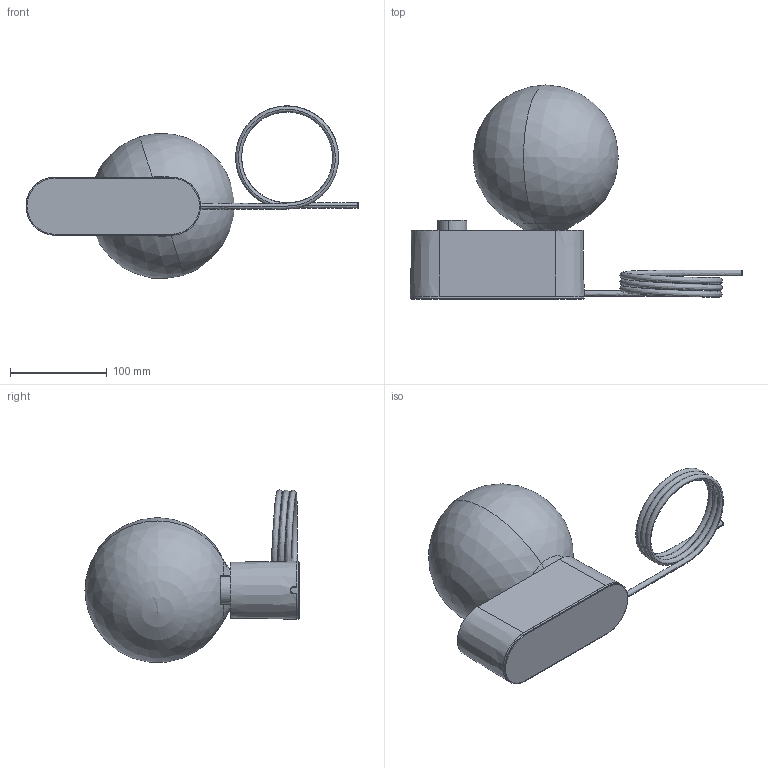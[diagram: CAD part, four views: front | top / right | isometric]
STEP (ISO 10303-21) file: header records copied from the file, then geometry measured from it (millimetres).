
FILE_DESCRIPTION (( 'STEP AP203' ), '1' );
FILE_NAME ('ALM-SPHR-IV-TBL-01-US.STEP', '2020-09-18T14:49:38', ( '' ), ( '' ), 'SwSTEP 2.0', 'SolidWorks 2020', '' );
FILE_SCHEMA (( 'CONFIG_CONTROL_DESIGN' ));
Length unit declared in the file: millimetre
Products named in the file (1): ALM-SPHR-IV-TBL-01-US
Bounding box: 342.66 x 220.92 x 177.78 mm (x, y, z)
Surface area: 151727 mm2 (no closed solid volume)
Topology: 0 solids, 9 shells, 59 faces, 221 edges, 168 vertices
Faces by surface type: cylinder 19, plane 19, bspline 9, cone 8, torus 2, sphere 2
Entity records: 4999 total; most frequent: CARTESIAN_POINT 3213, DIRECTION 330, ORIENTED_EDGE 320, EDGE_CURVE 216, VERTEX_POINT 165, AXIS2_PLACEMENT_3D 123, VECTOR 84, LINE 84
